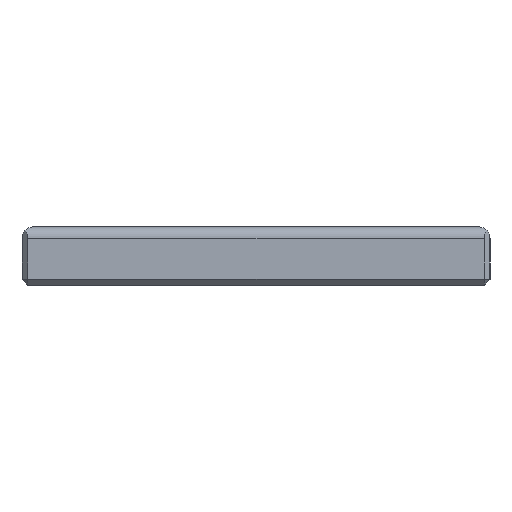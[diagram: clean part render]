
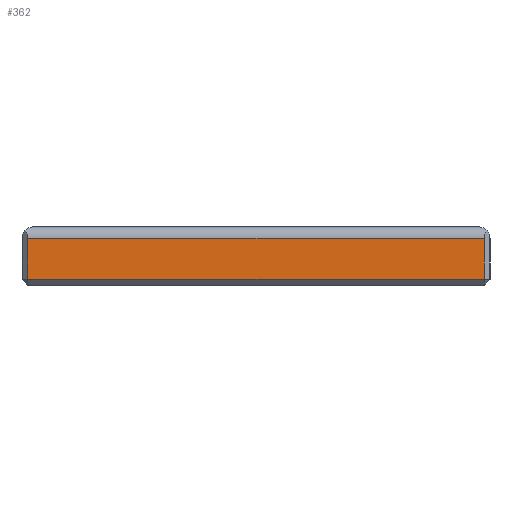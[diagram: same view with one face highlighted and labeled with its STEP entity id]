
A CAD part, front view. The second image highlights one B-rep face of the part: STEP entity #362.
In plain terms, the highlighted planar face has unit normal (0, -1, 0).
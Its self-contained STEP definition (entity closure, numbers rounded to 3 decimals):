
#15=PLANE('',#411);
#35=FACE_OUTER_BOUND('',#57,.T.);
#57=EDGE_LOOP('',(#253,#254,#255,#256));
#77=LINE('',#553,#113);
#80=LINE('',#567,#116);
#83=LINE('',#573,#119);
#84=LINE('',#574,#120);
#113=VECTOR('',#446,10.);
#116=VECTOR('',#461,10.);
#119=VECTOR('',#466,10.);
#120=VECTOR('',#467,10.);
#164=VERTEX_POINT('',#550);
#165=VERTEX_POINT('',#552);
#170=VERTEX_POINT('',#566);
#172=VERTEX_POINT('',#572);
#192=EDGE_CURVE('',#164,#165,#77,.T.);
#199=EDGE_CURVE('',#165,#170,#80,.T.);
#202=EDGE_CURVE('',#172,#164,#83,.T.);
#203=EDGE_CURVE('',#170,#172,#84,.T.);
#253=ORIENTED_EDGE('',*,*,#192,.F.);
#254=ORIENTED_EDGE('',*,*,#202,.F.);
#255=ORIENTED_EDGE('',*,*,#203,.F.);
#256=ORIENTED_EDGE('',*,*,#199,.F.);
#362=ADVANCED_FACE('',(#35),#15,.T.);
#411=AXIS2_PLACEMENT_3D('',#571,#464,#465);
#446=DIRECTION('',(1.,0.,0.));
#461=DIRECTION('',(0.,0.,-1.));
#464=DIRECTION('center_axis',(0.,-1.,0.));
#465=DIRECTION('ref_axis',(1.,0.,0.));
#466=DIRECTION('',(0.,0.,1.));
#467=DIRECTION('',(-1.,0.,0.));
#550=CARTESIAN_POINT('',(-79.,0.,8.));
#552=CARTESIAN_POINT('',(-1.,0.,8.));
#553=CARTESIAN_POINT('',(-60.,0.,8.));
#566=CARTESIAN_POINT('',(-1.,0.,1.));
#567=CARTESIAN_POINT('',(-1.,0.,0.));
#571=CARTESIAN_POINT('Origin',(-80.,0.,0.));
#572=CARTESIAN_POINT('',(-79.,0.,1.));
#573=CARTESIAN_POINT('',(-79.,0.,0.));
#574=CARTESIAN_POINT('',(-60.,0.,1.));
